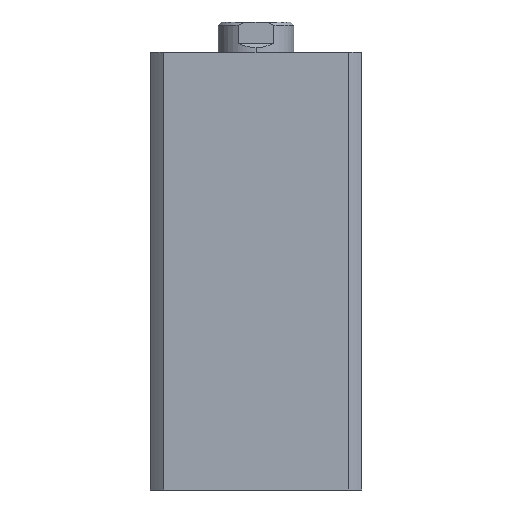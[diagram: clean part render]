
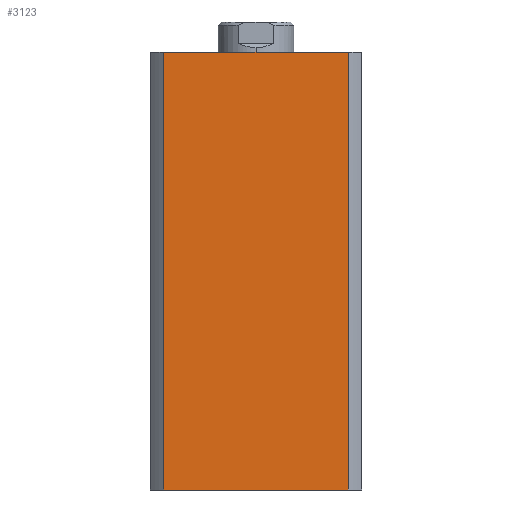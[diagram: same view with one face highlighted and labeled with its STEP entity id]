
A CAD part, left-side view. The second image highlights one B-rep face of the part: STEP entity #3123.
In plain terms, the highlighted planar face has unit normal (-1, 0, 0).
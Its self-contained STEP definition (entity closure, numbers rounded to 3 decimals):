
#505 = CARTESIAN_POINT ( 'NONE',  ( -35., 0., 145. ) ) ;
#507 = PLANE ( 'NONE',  #1827 ) ;
#510 = DIRECTION ( 'NONE',  ( 1., 0., 0. ) ) ;
#511 = DIRECTION ( 'NONE',  ( 0., 1., 0. ) ) ;
#676 = CARTESIAN_POINT ( 'NONE',  ( -35., 30.615, 0. ) ) ;
#871 = EDGE_CURVE ( 'NONE', #3857, #2544, #2798, .T. ) ;
#872 = EDGE_CURVE ( 'NONE', #3801, #2544, #2803, .T. ) ;
#873 = EDGE_CURVE ( 'NONE', #3856, #3801, #2802, .T. ) ;
#906 = EDGE_CURVE ( 'NONE', #3856, #3857, #2848, .T. ) ;
#1148 = EDGE_LOOP ( 'NONE', ( #3447, #3458, #3509, #3443 ) ) ;
#1386 = CARTESIAN_POINT ( 'NONE',  ( -35., -30.615, 0. ) ) ;
#1827 = AXIS2_PLACEMENT_3D ( 'NONE', #505, #510, #511 ) ;
#2241 = CARTESIAN_POINT ( 'NONE',  ( -35., 30.615, 145. ) ) ;
#2242 = CARTESIAN_POINT ( 'NONE',  ( -35., -30.615, 145. ) ) ;
#2544 = VERTEX_POINT ( 'NONE', #1386 ) ;
#2798 = LINE ( 'NONE', #4271, #2804 ) ;
#2802 = LINE ( 'NONE', #4270, #2808 ) ;
#2803 = LINE ( 'NONE', #4275, #2806 ) ;
#2804 = VECTOR ( 'NONE', #4267, 1000. ) ;
#2806 = VECTOR ( 'NONE', #4277, 1000. ) ;
#2808 = VECTOR ( 'NONE', #4278, 1000. ) ;
#2848 = LINE ( 'NONE', #4426, #2850 ) ;
#2850 = VECTOR ( 'NONE', #4425, 1000. ) ;
#3123 = ADVANCED_FACE ( 'NONE', ( #4856 ), #507, .F. ) ;
#3443 = ORIENTED_EDGE ( 'NONE', *, *, #873, .T. ) ;
#3447 = ORIENTED_EDGE ( 'NONE', *, *, #872, .T. ) ;
#3458 = ORIENTED_EDGE ( 'NONE', *, *, #871, .F. ) ;
#3509 = ORIENTED_EDGE ( 'NONE', *, *, #906, .F. ) ;
#3801 = VERTEX_POINT ( 'NONE', #676 ) ;
#3856 = VERTEX_POINT ( 'NONE', #2241 ) ;
#3857 = VERTEX_POINT ( 'NONE', #2242 ) ;
#4267 = DIRECTION ( 'NONE',  ( 0., 0., -1. ) ) ;
#4270 = CARTESIAN_POINT ( 'NONE',  ( -35., 30.615, 145. ) ) ;
#4271 = CARTESIAN_POINT ( 'NONE',  ( -35., -30.615, 145. ) ) ;
#4275 = CARTESIAN_POINT ( 'NONE',  ( -35., 0., 0. ) ) ;
#4277 = DIRECTION ( 'NONE',  ( 0., -1., 0. ) ) ;
#4278 = DIRECTION ( 'NONE',  ( 0., 0., -1. ) ) ;
#4425 = DIRECTION ( 'NONE',  ( 0., -1., 0. ) ) ;
#4426 = CARTESIAN_POINT ( 'NONE',  ( -35., 0., 145. ) ) ;
#4856 = FACE_OUTER_BOUND ( 'NONE', #1148, .T. ) ;
